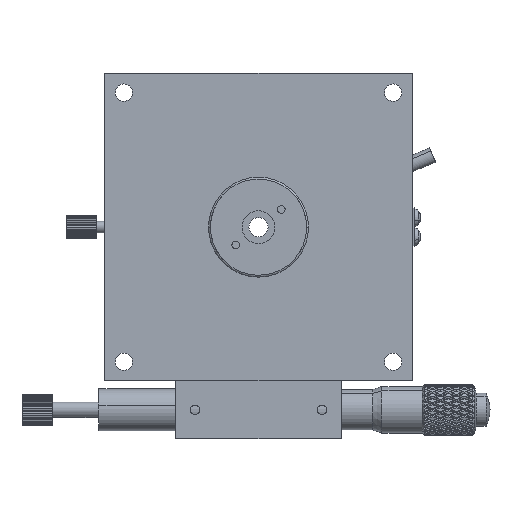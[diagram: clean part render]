
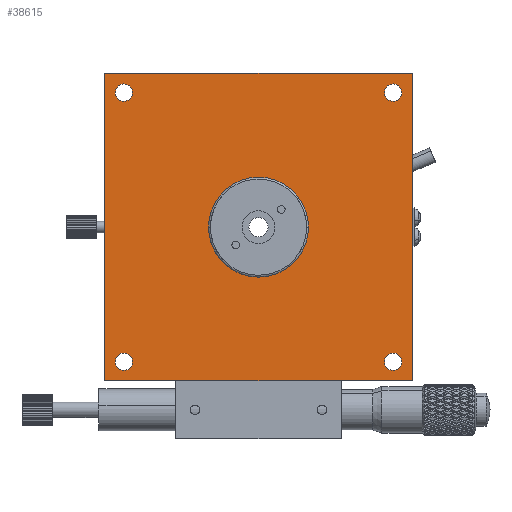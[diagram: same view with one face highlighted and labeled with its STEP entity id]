
A CAD part, front view. The second image highlights one B-rep face of the part: STEP entity #38615.
In plain terms, the highlighted planar face has unit normal (0, -1, 0).
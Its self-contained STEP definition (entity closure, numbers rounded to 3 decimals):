
#29 = VERTEX_POINT ( 'NONE', #60487 ) ;
#309 = DIRECTION ( 'NONE',  ( 0., 1., 0. ) ) ;
#470 = EDGE_CURVE ( 'NONE', #20609, #46417, #48529, .T. ) ;
#742 = EDGE_CURVE ( 'NONE', #48255, #45549, #15005, .T. ) ;
#993 = DIRECTION ( 'NONE',  ( 0., 0., 1. ) ) ;
#1007 = AXIS2_PLACEMENT_3D ( 'NONE', #30920, #1734, #35843 ) ;
#1134 = CARTESIAN_POINT ( 'NONE',  ( 35., -4.75, 35. ) ) ;
#1147 = ORIENTED_EDGE ( 'NONE', *, *, #742, .T. ) ;
#1734 = DIRECTION ( 'NONE',  ( 0., -1., 0. ) ) ;
#1799 = DIRECTION ( 'NONE',  ( 0., 0., -1. ) ) ;
#1841 = CARTESIAN_POINT ( 'NONE',  ( -35., -4.75, -37.25 ) ) ;
#2513 = CARTESIAN_POINT ( 'NONE',  ( 0., -4.75, -13. ) ) ;
#3631 = CIRCLE ( 'NONE', #13748, 2.25 ) ;
#3742 = VECTOR ( 'NONE', #1799, 1000. ) ;
#3764 = DIRECTION ( 'NONE',  ( 0., 0., -1. ) ) ;
#4898 = DIRECTION ( 'NONE',  ( 0., 1., 0. ) ) ;
#5106 = FACE_BOUND ( 'NONE', #39617, .T. ) ;
#6062 = DIRECTION ( 'NONE',  ( 0., 0., 1. ) ) ;
#6539 = CIRCLE ( 'NONE', #49275, 2.25 ) ;
#7197 = CARTESIAN_POINT ( 'NONE',  ( 35., -4.75, -37.25 ) ) ;
#7356 = ORIENTED_EDGE ( 'NONE', *, *, #52901, .T. ) ;
#8024 = AXIS2_PLACEMENT_3D ( 'NONE', #34091, #4898, #38947 ) ;
#8120 = CARTESIAN_POINT ( 'NONE',  ( 0., -4.75, 0. ) ) ;
#8694 = CARTESIAN_POINT ( 'NONE',  ( -40., -4.75, 40. ) ) ;
#9302 = LINE ( 'NONE', #52601, #46661 ) ;
#9356 = EDGE_CURVE ( 'NONE', #45549, #48255, #3631, .T. ) ;
#9369 = CARTESIAN_POINT ( 'NONE',  ( -40., -4.75, -40. ) ) ;
#9959 = CARTESIAN_POINT ( 'NONE',  ( -40., -4.75, 40. ) ) ;
#10384 = CARTESIAN_POINT ( 'NONE',  ( -35., -4.75, 35. ) ) ;
#10727 = ORIENTED_EDGE ( 'NONE', *, *, #48648, .T. ) ;
#11142 = EDGE_CURVE ( 'NONE', #29, #55583, #13487, .T. ) ;
#11354 = ORIENTED_EDGE ( 'NONE', *, *, #19744, .F. ) ;
#12156 = AXIS2_PLACEMENT_3D ( 'NONE', #12410, #46490, #17300 ) ;
#12410 = CARTESIAN_POINT ( 'NONE',  ( 35., -4.75, -35. ) ) ;
#13051 = DIRECTION ( 'NONE',  ( 0., 0., -1. ) ) ;
#13487 = CIRCLE ( 'NONE', #51433, 2.25 ) ;
#13680 = EDGE_LOOP ( 'NONE', ( #28112, #34192 ) ) ;
#13748 = AXIS2_PLACEMENT_3D ( 'NONE', #19485, #53572, #24400 ) ;
#14057 = CARTESIAN_POINT ( 'NONE',  ( 40., -4.75, -40. ) ) ;
#14374 = CARTESIAN_POINT ( 'NONE',  ( 0., -4.75, 13. ) ) ;
#15005 = CIRCLE ( 'NONE', #12156, 2.25 ) ;
#15318 = DIRECTION ( 'NONE',  ( 0., 0., 1. ) ) ;
#15769 = EDGE_CURVE ( 'NONE', #51068, #51813, #44462, .T. ) ;
#16221 = CARTESIAN_POINT ( 'NONE',  ( -35., -4.75, 37.25 ) ) ;
#16630 = ORIENTED_EDGE ( 'NONE', *, *, #41545, .T. ) ;
#16633 = EDGE_CURVE ( 'NONE', #55583, #29, #28368, .T. ) ;
#17300 = DIRECTION ( 'NONE',  ( 0., 0., 1. ) ) ;
#17741 = CARTESIAN_POINT ( 'NONE',  ( 35., -4.75, -32.75 ) ) ;
#18081 = CARTESIAN_POINT ( 'NONE',  ( -35., -4.75, -35. ) ) ;
#18105 = FACE_BOUND ( 'NONE', #25180, .T. ) ;
#19249 = CARTESIAN_POINT ( 'NONE',  ( -40., -4.75, -40. ) ) ;
#19419 = CIRCLE ( 'NONE', #21043, 2.25 ) ;
#19485 = CARTESIAN_POINT ( 'NONE',  ( 35., -4.75, -35. ) ) ;
#19744 = EDGE_CURVE ( 'NONE', #51813, #46417, #55593, .T. ) ;
#20609 = VERTEX_POINT ( 'NONE', #9369 ) ;
#21043 = AXIS2_PLACEMENT_3D ( 'NONE', #26447, #60489, #31309 ) ;
#21424 = AXIS2_PLACEMENT_3D ( 'NONE', #8120, #42159, #13051 ) ;
#21568 = CARTESIAN_POINT ( 'NONE',  ( 35., -4.75, 37.25 ) ) ;
#23022 = DIRECTION ( 'NONE',  ( 0., 0., 1. ) ) ;
#24400 = DIRECTION ( 'NONE',  ( 0., 0., 1. ) ) ;
#24831 = CIRCLE ( 'NONE', #1007, 13. ) ;
#25180 = EDGE_LOOP ( 'NONE', ( #16630, #7356 ) ) ;
#25934 = ORIENTED_EDGE ( 'NONE', *, *, #51602, .T. ) ;
#26279 = CARTESIAN_POINT ( 'NONE',  ( 35., -4.75, 32.75 ) ) ;
#26350 = CARTESIAN_POINT ( 'NONE',  ( 40., -4.75, 40. ) ) ;
#26447 = CARTESIAN_POINT ( 'NONE',  ( -35., -4.75, -35. ) ) ;
#27363 = ORIENTED_EDGE ( 'NONE', *, *, #11142, .T. ) ;
#27784 = VERTEX_POINT ( 'NONE', #1841 ) ;
#28112 = ORIENTED_EDGE ( 'NONE', *, *, #39607, .F. ) ;
#28368 = CIRCLE ( 'NONE', #54111, 2.25 ) ;
#29044 = CARTESIAN_POINT ( 'NONE',  ( -40., -4.75, 40. ) ) ;
#30160 = DIRECTION ( 'NONE',  ( 0., 1., 0. ) ) ;
#30396 = EDGE_LOOP ( 'NONE', ( #34214, #11354, #35166, #35683 ) ) ;
#30421 = EDGE_LOOP ( 'NONE', ( #39604, #27363 ) ) ;
#30920 = CARTESIAN_POINT ( 'NONE',  ( 0., -4.75, 0. ) ) ;
#30990 = FACE_BOUND ( 'NONE', #13680, .T. ) ;
#31005 = CIRCLE ( 'NONE', #8024, 2.25 ) ;
#31309 = DIRECTION ( 'NONE',  ( 0., 0., 1. ) ) ;
#34091 = CARTESIAN_POINT ( 'NONE',  ( 35., -4.75, 35. ) ) ;
#34192 = ORIENTED_EDGE ( 'NONE', *, *, #40350, .F. ) ;
#34214 = ORIENTED_EDGE ( 'NONE', *, *, #470, .T. ) ;
#34295 = CARTESIAN_POINT ( 'NONE',  ( 40., -4.75, 40. ) ) ;
#34424 = DIRECTION ( 'NONE',  ( 0., 0., 1. ) ) ;
#35166 = ORIENTED_EDGE ( 'NONE', *, *, #15769, .F. ) ;
#35228 = DIRECTION ( 'NONE',  ( 0., 1., 0. ) ) ;
#35510 = CIRCLE ( 'NONE', #59158, 2.25 ) ;
#35683 = ORIENTED_EDGE ( 'NONE', *, *, #35698, .T. ) ;
#35698 = EDGE_CURVE ( 'NONE', #51068, #20609, #9302, .T. ) ;
#35843 = DIRECTION ( 'NONE',  ( 0., 0., -1. ) ) ;
#38615 = ADVANCED_FACE ( 'NONE', ( #30990, #56926, #43972, #18105, #5106, #55414 ), #58697, .F. ) ;
#38761 = DIRECTION ( 'NONE',  ( 1., 0., 0. ) ) ;
#38947 = DIRECTION ( 'NONE',  ( 0., 0., 1. ) ) ;
#39195 = VERTEX_POINT ( 'NONE', #14374 ) ;
#39604 = ORIENTED_EDGE ( 'NONE', *, *, #16633, .T. ) ;
#39607 = EDGE_CURVE ( 'NONE', #57762, #39195, #40811, .T. ) ;
#39617 = EDGE_LOOP ( 'NONE', ( #1147, #47279 ) ) ;
#40350 = EDGE_CURVE ( 'NONE', #39195, #57762, #24831, .T. ) ;
#40811 = CIRCLE ( 'NONE', #21424, 13. ) ;
#41545 = EDGE_CURVE ( 'NONE', #59561, #52683, #6539, .T. ) ;
#42159 = DIRECTION ( 'NONE',  ( 0., -1., 0. ) ) ;
#43972 = FACE_BOUND ( 'NONE', #30421, .T. ) ;
#44451 = DIRECTION ( 'NONE',  ( 0., 1., 0. ) ) ;
#44462 = LINE ( 'NONE', #29044, #46027 ) ;
#45549 = VERTEX_POINT ( 'NONE', #7197 ) ;
#46027 = VECTOR ( 'NONE', #48657, 1000. ) ;
#46417 = VERTEX_POINT ( 'NONE', #14057 ) ;
#46490 = DIRECTION ( 'NONE',  ( 0., 1., 0. ) ) ;
#46661 = VECTOR ( 'NONE', #3764, 1000. ) ;
#47279 = ORIENTED_EDGE ( 'NONE', *, *, #9356, .T. ) ;
#48255 = VERTEX_POINT ( 'NONE', #17741 ) ;
#48529 = LINE ( 'NONE', #19249, #61443 ) ;
#48648 = EDGE_CURVE ( 'NONE', #27784, #62569, #35510, .T. ) ;
#48657 = DIRECTION ( 'NONE',  ( 1., 0., 0. ) ) ;
#49275 = AXIS2_PLACEMENT_3D ( 'NONE', #1134, #35228, #6062 ) ;
#50168 = EDGE_LOOP ( 'NONE', ( #25934, #10727 ) ) ;
#51068 = VERTEX_POINT ( 'NONE', #8694 ) ;
#51433 = AXIS2_PLACEMENT_3D ( 'NONE', #59380, #30160, #993 ) ;
#51602 = EDGE_CURVE ( 'NONE', #62569, #27784, #19419, .T. ) ;
#51813 = VERTEX_POINT ( 'NONE', #34295 ) ;
#52150 = DIRECTION ( 'NONE',  ( 0., 1., 0. ) ) ;
#52601 = CARTESIAN_POINT ( 'NONE',  ( -40., -4.75, 40. ) ) ;
#52683 = VERTEX_POINT ( 'NONE', #26279 ) ;
#52901 = EDGE_CURVE ( 'NONE', #52683, #59561, #31005, .T. ) ;
#53572 = DIRECTION ( 'NONE',  ( 0., 1., 0. ) ) ;
#54111 = AXIS2_PLACEMENT_3D ( 'NONE', #10384, #44451, #15318 ) ;
#55414 = FACE_OUTER_BOUND ( 'NONE', #30396, .T. ) ;
#55583 = VERTEX_POINT ( 'NONE', #16221 ) ;
#55593 = LINE ( 'NONE', #26350, #3742 ) ;
#56926 = FACE_BOUND ( 'NONE', #50168, .T. ) ;
#57762 = VERTEX_POINT ( 'NONE', #2513 ) ;
#58697 = PLANE ( 'NONE',  #60758 ) ;
#59158 = AXIS2_PLACEMENT_3D ( 'NONE', #18081, #52150, #23022 ) ;
#59380 = CARTESIAN_POINT ( 'NONE',  ( -35., -4.75, 35. ) ) ;
#59561 = VERTEX_POINT ( 'NONE', #21568 ) ;
#60487 = CARTESIAN_POINT ( 'NONE',  ( -35., -4.75, 32.75 ) ) ;
#60489 = DIRECTION ( 'NONE',  ( 0., 1., 0. ) ) ;
#60758 = AXIS2_PLACEMENT_3D ( 'NONE', #9959, #309, #34424 ) ;
#61443 = VECTOR ( 'NONE', #38761, 1000. ) ;
#61561 = CARTESIAN_POINT ( 'NONE',  ( -35., -4.75, -32.75 ) ) ;
#62569 = VERTEX_POINT ( 'NONE', #61561 ) ;
